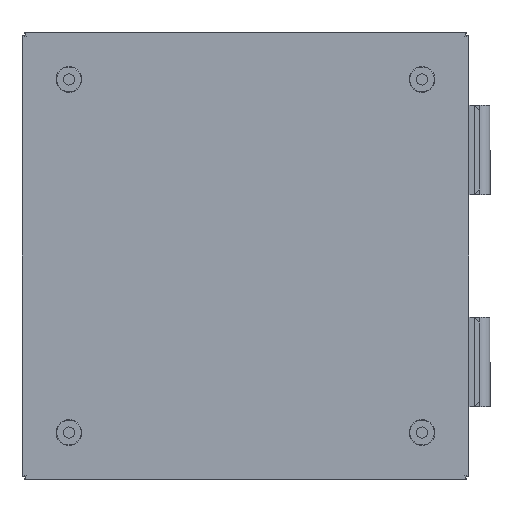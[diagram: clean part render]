
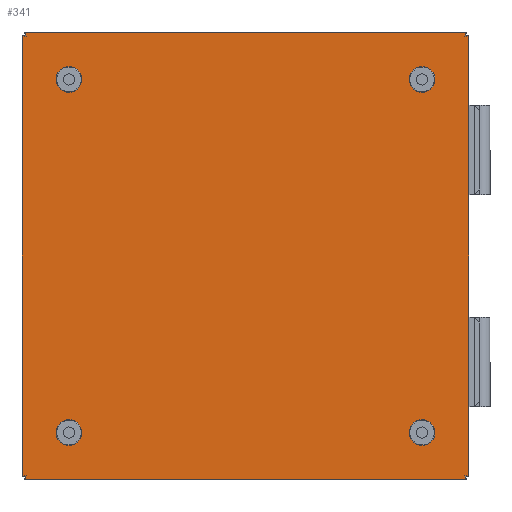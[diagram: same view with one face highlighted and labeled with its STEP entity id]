
A CAD part, front view. The second image highlights one B-rep face of the part: STEP entity #341.
In plain terms, the highlighted planar face has unit normal (0, -1, 0).
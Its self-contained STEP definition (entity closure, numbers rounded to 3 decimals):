
#341 = ADVANCED_FACE('',(#342,#362,#373,#393,#404),#526,.T.);
#342 = FACE_BOUND('',#343,.T.);
#343 = EDGE_LOOP('',(#344,#355));
#344 = ORIENTED_EDGE('',*,*,#345,.F.);
#345 = EDGE_CURVE('',#346,#348,#350,.T.);
#346 = VERTEX_POINT('',#347);
#347 = CARTESIAN_POINT('',(-79.,-1.2,-75.));
#348 = VERTEX_POINT('',#349);
#349 = CARTESIAN_POINT('',(-79.,-1.2,-83.));
#350 = CIRCLE('',#351,4.);
#351 = AXIS2_PLACEMENT_3D('',#352,#353,#354);
#352 = CARTESIAN_POINT('',(-79.,-1.2,-79.));
#353 = DIRECTION('',(0.,-1.,0.));
#354 = DIRECTION('',(0.,0.,1.));
#355 = ORIENTED_EDGE('',*,*,#356,.F.);
#356 = EDGE_CURVE('',#348,#346,#357,.T.);
#357 = CIRCLE('',#358,4.);
#358 = AXIS2_PLACEMENT_3D('',#359,#360,#361);
#359 = CARTESIAN_POINT('',(-79.,-1.2,-79.));
#360 = DIRECTION('',(0.,-1.,0.));
#361 = DIRECTION('',(0.,0.,1.));
#362 = FACE_BOUND('',#363,.T.);
#363 = EDGE_LOOP('',(#364));
#364 = ORIENTED_EDGE('',*,*,#365,.F.);
#365 = EDGE_CURVE('',#366,#366,#368,.T.);
#366 = VERTEX_POINT('',#367);
#367 = CARTESIAN_POINT('',(79.,-1.2,-83.));
#368 = CIRCLE('',#369,4.);
#369 = AXIS2_PLACEMENT_3D('',#370,#371,#372);
#370 = CARTESIAN_POINT('',(79.,-1.2,-79.));
#371 = DIRECTION('',(0.,-1.,0.));
#372 = DIRECTION('',(0.,0.,-1.));
#373 = FACE_BOUND('',#374,.T.);
#374 = EDGE_LOOP('',(#375,#386));
#375 = ORIENTED_EDGE('',*,*,#376,.F.);
#376 = EDGE_CURVE('',#377,#379,#381,.T.);
#377 = VERTEX_POINT('',#378);
#378 = CARTESIAN_POINT('',(79.,-1.2,83.));
#379 = VERTEX_POINT('',#380);
#380 = CARTESIAN_POINT('',(79.,-1.2,75.));
#381 = CIRCLE('',#382,4.);
#382 = AXIS2_PLACEMENT_3D('',#383,#384,#385);
#383 = CARTESIAN_POINT('',(79.,-1.2,79.));
#384 = DIRECTION('',(0.,-1.,0.));
#385 = DIRECTION('',(0.,0.,1.));
#386 = ORIENTED_EDGE('',*,*,#387,.F.);
#387 = EDGE_CURVE('',#379,#377,#388,.T.);
#388 = CIRCLE('',#389,4.);
#389 = AXIS2_PLACEMENT_3D('',#390,#391,#392);
#390 = CARTESIAN_POINT('',(79.,-1.2,79.));
#391 = DIRECTION('',(0.,-1.,0.));
#392 = DIRECTION('',(0.,0.,1.));
#393 = FACE_BOUND('',#394,.T.);
#394 = EDGE_LOOP('',(#395));
#395 = ORIENTED_EDGE('',*,*,#396,.F.);
#396 = EDGE_CURVE('',#397,#397,#399,.T.);
#397 = VERTEX_POINT('',#398);
#398 = CARTESIAN_POINT('',(-79.,-1.2,75.));
#399 = CIRCLE('',#400,4.);
#400 = AXIS2_PLACEMENT_3D('',#401,#402,#403);
#401 = CARTESIAN_POINT('',(-79.,-1.2,79.));
#402 = DIRECTION('',(0.,-1.,0.));
#403 = DIRECTION('',(0.,0.,-1.));
#404 = FACE_BOUND('',#405,.T.);
#405 = EDGE_LOOP('',(#406,#419,#430,#438,#449,#460,#468,#479,#490,#498,
    #509,#520));
#406 = ORIENTED_EDGE('',*,*,#407,.F.);
#407 = EDGE_CURVE('',#408,#410,#412,.T.);
#408 = VERTEX_POINT('',#409);
#409 = CARTESIAN_POINT('',(-98.2,-1.2,98.2));
#410 = VERTEX_POINT('',#411);
#411 = CARTESIAN_POINT('',(-98.574,-1.2,100.));
#412 = B_SPLINE_CURVE_WITH_KNOTS('',3,(#413,#414,#415,#416,#417,#418),
  .UNSPECIFIED.,.F.,.F.,(4,2,4),(0.004,0.005,
    0.006),.UNSPECIFIED.);
#413 = CARTESIAN_POINT('',(-98.2,-1.2,98.2));
#414 = CARTESIAN_POINT('',(-98.287,-1.2,98.495));
#415 = CARTESIAN_POINT('',(-98.371,-1.2,98.79));
#416 = CARTESIAN_POINT('',(-98.498,-1.2,99.39));
#417 = CARTESIAN_POINT('',(-98.543,-1.2,99.695));
#418 = CARTESIAN_POINT('',(-98.574,-1.2,100.));
#419 = ORIENTED_EDGE('',*,*,#420,.T.);
#420 = EDGE_CURVE('',#408,#421,#423,.T.);
#421 = VERTEX_POINT('',#422);
#422 = CARTESIAN_POINT('',(-100.,-1.2,98.574));
#423 = B_SPLINE_CURVE_WITH_KNOTS('',3,(#424,#425,#426,#427,#428,#429),
  .UNSPECIFIED.,.F.,.F.,(4,2,4),(0.004,0.005,
    0.006),.UNSPECIFIED.);
#424 = CARTESIAN_POINT('',(-98.2,-1.2,98.2));
#425 = CARTESIAN_POINT('',(-98.495,-1.2,98.287));
#426 = CARTESIAN_POINT('',(-98.79,-1.2,98.371));
#427 = CARTESIAN_POINT('',(-99.39,-1.2,98.498));
#428 = CARTESIAN_POINT('',(-99.695,-1.2,98.543));
#429 = CARTESIAN_POINT('',(-100.,-1.2,98.574));
#430 = ORIENTED_EDGE('',*,*,#431,.T.);
#431 = EDGE_CURVE('',#421,#432,#434,.T.);
#432 = VERTEX_POINT('',#433);
#433 = CARTESIAN_POINT('',(-100.,-1.2,-98.574));
#434 = LINE('',#435,#436);
#435 = CARTESIAN_POINT('',(-100.,-1.2,1100.));
#436 = VECTOR('',#437,1.);
#437 = DIRECTION('',(0.,0.,-1.));
#438 = ORIENTED_EDGE('',*,*,#439,.F.);
#439 = EDGE_CURVE('',#440,#432,#442,.T.);
#440 = VERTEX_POINT('',#441);
#441 = CARTESIAN_POINT('',(-98.2,-1.2,-98.2));
#442 = B_SPLINE_CURVE_WITH_KNOTS('',3,(#443,#444,#445,#446,#447,#448),
  .UNSPECIFIED.,.F.,.F.,(4,2,4),(0.004,0.005,
    0.006),.UNSPECIFIED.);
#443 = CARTESIAN_POINT('',(-98.2,-1.2,-98.2));
#444 = CARTESIAN_POINT('',(-98.495,-1.2,-98.287));
#445 = CARTESIAN_POINT('',(-98.79,-1.2,-98.371));
#446 = CARTESIAN_POINT('',(-99.39,-1.2,-98.498));
#447 = CARTESIAN_POINT('',(-99.695,-1.2,-98.543));
#448 = CARTESIAN_POINT('',(-100.,-1.2,-98.574));
#449 = ORIENTED_EDGE('',*,*,#450,.T.);
#450 = EDGE_CURVE('',#440,#451,#453,.T.);
#451 = VERTEX_POINT('',#452);
#452 = CARTESIAN_POINT('',(-98.574,-1.2,-100.));
#453 = B_SPLINE_CURVE_WITH_KNOTS('',3,(#454,#455,#456,#457,#458,#459),
  .UNSPECIFIED.,.F.,.F.,(4,2,4),(0.004,0.005,
    0.006),.UNSPECIFIED.);
#454 = CARTESIAN_POINT('',(-98.2,-1.2,-98.2));
#455 = CARTESIAN_POINT('',(-98.287,-1.2,-98.495));
#456 = CARTESIAN_POINT('',(-98.371,-1.2,-98.79));
#457 = CARTESIAN_POINT('',(-98.498,-1.2,-99.39));
#458 = CARTESIAN_POINT('',(-98.543,-1.2,-99.695));
#459 = CARTESIAN_POINT('',(-98.574,-1.2,-100.));
#460 = ORIENTED_EDGE('',*,*,#461,.T.);
#461 = EDGE_CURVE('',#451,#462,#464,.T.);
#462 = VERTEX_POINT('',#463);
#463 = CARTESIAN_POINT('',(98.574,-1.2,-100.));
#464 = LINE('',#465,#466);
#465 = CARTESIAN_POINT('',(-1100.,-1.2,-100.));
#466 = VECTOR('',#467,1.);
#467 = DIRECTION('',(1.,0.,0.));
#468 = ORIENTED_EDGE('',*,*,#469,.F.);
#469 = EDGE_CURVE('',#470,#462,#472,.T.);
#470 = VERTEX_POINT('',#471);
#471 = CARTESIAN_POINT('',(98.2,-1.2,-98.2));
#472 = B_SPLINE_CURVE_WITH_KNOTS('',3,(#473,#474,#475,#476,#477,#478),
  .UNSPECIFIED.,.F.,.F.,(4,2,4),(0.004,0.005,
    0.006),.UNSPECIFIED.);
#473 = CARTESIAN_POINT('',(98.2,-1.2,-98.2));
#474 = CARTESIAN_POINT('',(98.287,-1.2,-98.495));
#475 = CARTESIAN_POINT('',(98.371,-1.2,-98.79));
#476 = CARTESIAN_POINT('',(98.498,-1.2,-99.39));
#477 = CARTESIAN_POINT('',(98.543,-1.2,-99.695));
#478 = CARTESIAN_POINT('',(98.574,-1.2,-100.));
#479 = ORIENTED_EDGE('',*,*,#480,.T.);
#480 = EDGE_CURVE('',#470,#481,#483,.T.);
#481 = VERTEX_POINT('',#482);
#482 = CARTESIAN_POINT('',(100.,-1.2,-98.574));
#483 = B_SPLINE_CURVE_WITH_KNOTS('',3,(#484,#485,#486,#487,#488,#489),
  .UNSPECIFIED.,.F.,.F.,(4,2,4),(0.004,0.005,
    0.006),.UNSPECIFIED.);
#484 = CARTESIAN_POINT('',(98.2,-1.2,-98.2));
#485 = CARTESIAN_POINT('',(98.495,-1.2,-98.287));
#486 = CARTESIAN_POINT('',(98.79,-1.2,-98.371));
#487 = CARTESIAN_POINT('',(99.39,-1.2,-98.498));
#488 = CARTESIAN_POINT('',(99.695,-1.2,-98.543));
#489 = CARTESIAN_POINT('',(100.,-1.2,-98.574));
#490 = ORIENTED_EDGE('',*,*,#491,.T.);
#491 = EDGE_CURVE('',#481,#492,#494,.T.);
#492 = VERTEX_POINT('',#493);
#493 = CARTESIAN_POINT('',(100.,-1.2,98.574));
#494 = LINE('',#495,#496);
#495 = CARTESIAN_POINT('',(100.,-1.2,-1100.));
#496 = VECTOR('',#497,1.);
#497 = DIRECTION('',(0.,0.,1.));
#498 = ORIENTED_EDGE('',*,*,#499,.F.);
#499 = EDGE_CURVE('',#500,#492,#502,.T.);
#500 = VERTEX_POINT('',#501);
#501 = CARTESIAN_POINT('',(98.2,-1.2,98.2));
#502 = B_SPLINE_CURVE_WITH_KNOTS('',3,(#503,#504,#505,#506,#507,#508),
  .UNSPECIFIED.,.F.,.F.,(4,2,4),(0.004,0.005,
    0.006),.UNSPECIFIED.);
#503 = CARTESIAN_POINT('',(98.2,-1.2,98.2));
#504 = CARTESIAN_POINT('',(98.495,-1.2,98.287));
#505 = CARTESIAN_POINT('',(98.79,-1.2,98.371));
#506 = CARTESIAN_POINT('',(99.39,-1.2,98.498));
#507 = CARTESIAN_POINT('',(99.695,-1.2,98.543));
#508 = CARTESIAN_POINT('',(100.,-1.2,98.574));
#509 = ORIENTED_EDGE('',*,*,#510,.T.);
#510 = EDGE_CURVE('',#500,#511,#513,.T.);
#511 = VERTEX_POINT('',#512);
#512 = CARTESIAN_POINT('',(98.574,-1.2,100.));
#513 = B_SPLINE_CURVE_WITH_KNOTS('',3,(#514,#515,#516,#517,#518,#519),
  .UNSPECIFIED.,.F.,.F.,(4,2,4),(0.004,0.005,
    0.006),.UNSPECIFIED.);
#514 = CARTESIAN_POINT('',(98.2,-1.2,98.2));
#515 = CARTESIAN_POINT('',(98.287,-1.2,98.495));
#516 = CARTESIAN_POINT('',(98.371,-1.2,98.79));
#517 = CARTESIAN_POINT('',(98.498,-1.2,99.39));
#518 = CARTESIAN_POINT('',(98.543,-1.2,99.695));
#519 = CARTESIAN_POINT('',(98.574,-1.2,100.));
#520 = ORIENTED_EDGE('',*,*,#521,.T.);
#521 = EDGE_CURVE('',#511,#410,#522,.T.);
#522 = LINE('',#523,#524);
#523 = CARTESIAN_POINT('',(1100.,-1.2,100.));
#524 = VECTOR('',#525,1.);
#525 = DIRECTION('',(-1.,0.,0.));
#526 = PLANE('',#527);
#527 = AXIS2_PLACEMENT_3D('',#528,#529,#530);
#528 = CARTESIAN_POINT('',(0.,-1.2,0.));
#529 = DIRECTION('',(0.,-1.,0.));
#530 = DIRECTION('',(0.,-0.,-1.));
